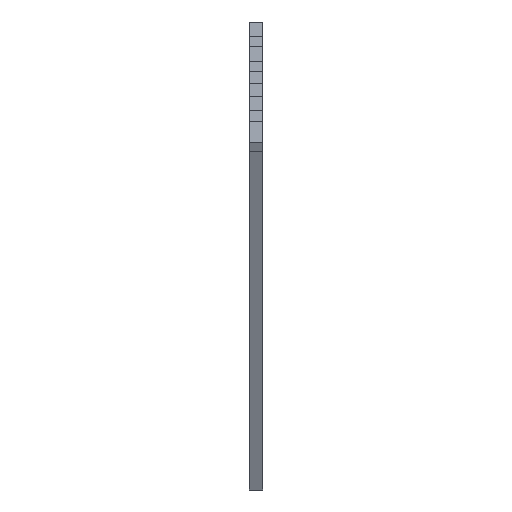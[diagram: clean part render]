
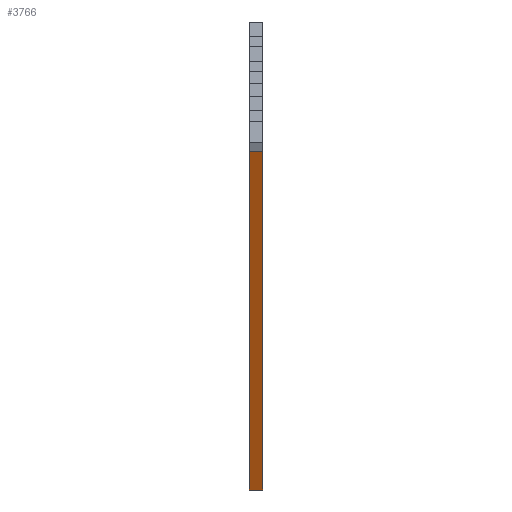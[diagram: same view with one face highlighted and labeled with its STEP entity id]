
A CAD part, left-side view. The second image highlights one B-rep face of the part: STEP entity #3766.
In plain terms, the highlighted planar face has unit normal (-0.128, 0, -0.992).
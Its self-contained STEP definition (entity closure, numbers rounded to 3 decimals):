
#451=DIRECTION('',(-0.992,0.,0.128));
#452=VECTOR('',#451,704.065);
#453=CARTESIAN_POINT('',(631.55,-19.,215.546));
#454=LINE('',#453,#452);
#957=DIRECTION('',(-0.992,0.,0.128));
#958=VECTOR('',#957,704.065);
#959=CARTESIAN_POINT('',(631.55,-16.,215.546));
#960=LINE('',#959,#958);
#1369=DIRECTION('',(0.,1.,0.));
#1370=VECTOR('',#1369,3.);
#1371=CARTESIAN_POINT('',(631.55,-19.,215.546));
#1372=LINE('',#1371,#1370);
#1373=DIRECTION('',(0.,1.,0.));
#1374=VECTOR('',#1373,3.);
#1375=CARTESIAN_POINT('',(-66.709,-19.,305.785));
#1376=LINE('',#1375,#1374);
#1558=CARTESIAN_POINT('',(631.55,-19.,215.546));
#1560=VERTEX_POINT('',#1558);
#1562=CARTESIAN_POINT('',(631.55,-16.,215.546));
#1564=VERTEX_POINT('',#1562);
#1813=CARTESIAN_POINT('',(-66.709,-19.,305.785));
#1814=CARTESIAN_POINT('',(-66.709,-16.,305.785));
#1815=VERTEX_POINT('',#1813);
#1816=VERTEX_POINT('',#1814);
#3755=CARTESIAN_POINT('',(1362.961,-19.,121.023));
#3756=DIRECTION('',(-0.128,0.,-0.992));
#3757=DIRECTION('',(-0.992,0.,0.128));
#3758=AXIS2_PLACEMENT_3D('',#3755,#3756,#3757);
#3759=PLANE('',#3758);
#3760=ORIENTED_EDGE('',*,*,#3710,.T.);
#3761=ORIENTED_EDGE('',*,*,#2145,.T.);
#3762=ORIENTED_EDGE('',*,*,#3733,.F.);
#3763=ORIENTED_EDGE('',*,*,#1828,.F.);
#3764=EDGE_LOOP('',(#3760,#3761,#3762,#3763));
#3765=FACE_OUTER_BOUND('',#3764,.F.);
#3766=ADVANCED_FACE('',(#3765),#3759,.T.);
#1828=EDGE_CURVE('',#1560,#1815,#454,.T.);
#2145=EDGE_CURVE('',#1564,#1816,#960,.T.);
#3710=EDGE_CURVE('',#1560,#1564,#1372,.T.);
#3733=EDGE_CURVE('',#1815,#1816,#1376,.T.);
